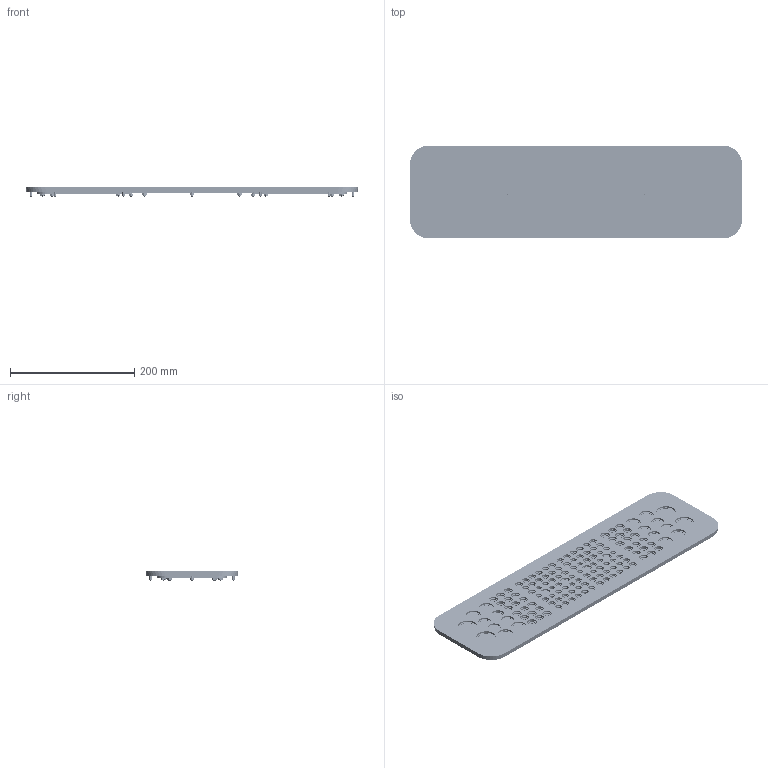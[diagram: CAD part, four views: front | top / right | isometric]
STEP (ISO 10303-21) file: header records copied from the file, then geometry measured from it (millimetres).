
FILE_DESCRIPTION(/* description */ ('Unknown'),/* implementation_level */ '2;1');
FILE_NAME(/* name */ 'KDP-S 149_140 V4A',/* time_stamp */ '2022-06-02T10:27:07+02:00',/* author */ ('Unknown'),/* organization */ ('Unknown'),/* preprocessor_version */ 'ST-DEVELOPER v16.7',/* originating_system */ 'Solid Edge',/* authorisation */ 'Unknown');
FILE_SCHEMA (('AUTOMOTIVE_DESIGN {1 0 10303 214 3 1 1}'));
Length unit declared in the file: millimetre
Products named in the file (12): KDP-S 149_140 V4A; KDP-M 149_140 V4A_FLP mB; KDP-V 149_140 NBR 8766308806; KDP-AB 149_140 EPDM 8766308807; KDP-A 149_140 EPDM-L 8766308805; KDP-A 149_140 EPDM-R 8766308805; KDP-VB 149_140 NBR 8766308808; KDP-M 149_140 V4A_ADP-A; KDP-M 149_140 V4A_ADP-B; ZD Rittal Gr. 5; 6kt- Mutter M4x 0.8d V4; Fd- Ring glatt M4 A2
Assembly tree (31 placements, depth 2):
  KDP-S 149_140 V4A
    KDP-M 149_140 V4A_FLP mB
    KDP-V 149_140 NBR 8766308806  x2
    KDP-AB 149_140 EPDM 8766308807
    KDP-A 149_140 EPDM-L 8766308805
    KDP-A 149_140 EPDM-R 8766308805
    KDP-VB 149_140 NBR 8766308808
    KDP-M 149_140 V4A_ADP-A  x2
    KDP-M 149_140 V4A_ADP-B
    ZD Rittal Gr. 5
    6kt- Mutter M4x 0.8d V4  x18
    Fd- Ring glatt M4 A2  x2
Bounding box: 534 x 149 x 14.5 mm (x, y, z)
Volume: 545768.6 mm3; surface area: 486539.5 mm2
Topology: 31 solids, 61 shells, 1398 faces, 3506 edges, 2454 vertices
Faces by surface type: cylinder 784, plane 518, cone 60, torus 36
Full cylindrical faces by diameter (mm): 2.5 x30, 3.242 x18, 3.5 x16, 4 x42, 4.2 x16, 4.5 x80, 5 x40, 5.5 x46, 6 x8, 7.5 x16, 8.5 x8, 9.5 x64, 10 x4, 10.5 x32, 12 x62, 12.5 x38, 13 x68, 15 x72, 15.5 x8, 16 x8, 19.5 x8, 20 x16, 24 x8, 26 x8, 26.5 x4, 31 x4, 32 x4
Entity records: 32195 total; most frequent: DIRECTION 5368, CARTESIAN_POINT 4503, ORIENTED_EDGE 3324, EDGE_LOOP 2830, FACE_BOUND 2830, AXIS2_PLACEMENT_3D 2581, EDGE_CURVE 1662, VERTEX_POINT 1560
